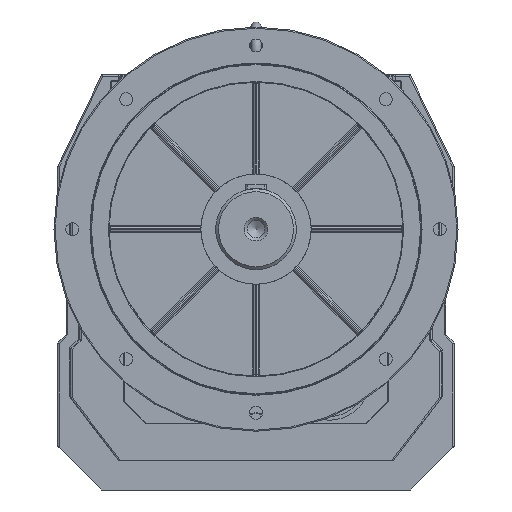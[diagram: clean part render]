
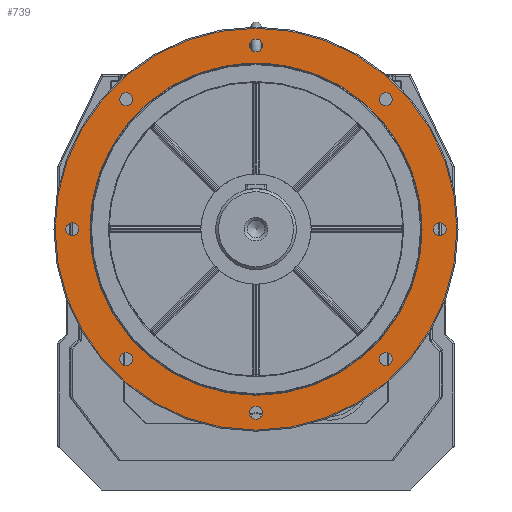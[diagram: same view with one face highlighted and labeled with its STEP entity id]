
A CAD part, front view. The second image highlights one B-rep face of the part: STEP entity #739.
In plain terms, the highlighted planar face has unit normal (0, -1, 0).
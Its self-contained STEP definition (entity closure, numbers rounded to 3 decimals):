
#617=CARTESIAN_POINT('',(0.0,-300.0,628.5));
#618=VERTEX_POINT('',#617);
#619=CARTESIAN_POINT('',(0.0,-300.0,355.0));
#620=DIRECTION('',(0.0,1.0,0.0));
#621=DIRECTION('',(0.0,0.0,-1.0));
#622=AXIS2_PLACEMENT_3D('',#619,#620,#621);
#623=CIRCLE('',#622,273.5);
#624=EDGE_CURVE('',#618,#618,#623,.T.);
#632=CARTESIAN_POINT('',(0.0,-300.0,605.0));
#633=DIRECTION('',(0.0,-1.0,0.0));
#634=DIRECTION('',(0.0,0.0,-1.0));
#635=AXIS2_PLACEMENT_3D('',#632,#633,#634);
#636=PLANE('',#635);
#637=ORIENTED_EDGE('',*,*,#624,.F.);
#638=EDGE_LOOP('',(#637));
#639=FACE_OUTER_BOUND('',#638,.T.);
#640=CARTESIAN_POINT('',(0.,-300.0,581.0));
#641=VERTEX_POINT('',#640);
#642=CARTESIAN_POINT('',(0.0,-300.0,355.0));
#643=DIRECTION('',(0.0,-1.0,0.0));
#644=DIRECTION('',(0.0,0.0,-1.0));
#645=AXIS2_PLACEMENT_3D('',#642,#643,#644);
#646=CIRCLE('',#645,226.0);
#647=EDGE_CURVE('',#641,#641,#646,.T.);
#648=ORIENTED_EDGE('',*,*,#647,.F.);
#649=EDGE_LOOP('',(#648));
#650=FACE_BOUND('',#649,.T.);
#651=CARTESIAN_POINT('',(-241.25,-300.0,355.0));
#652=VERTEX_POINT('',#651);
#653=CARTESIAN_POINT('',(-250.0,-300.0,355.0));
#654=DIRECTION('',(0.0,1.0,0.0));
#655=DIRECTION('',(1.0,0.0,0.0));
#656=AXIS2_PLACEMENT_3D('',#653,#654,#655);
#657=CIRCLE('',#656,8.75);
#658=EDGE_CURVE('',#652,#652,#657,.T.);
#659=ORIENTED_EDGE('',*,*,#658,.T.);
#660=EDGE_LOOP('',(#659));
#661=FACE_BOUND('',#660,.T.);
#662=CARTESIAN_POINT('',(-168.027,-300.0,531.777));
#663=VERTEX_POINT('',#662);
#664=CARTESIAN_POINT('',(-176.777,-300.0,531.777));
#665=DIRECTION('',(0.0,1.0,0.0));
#666=DIRECTION('',(1.0,0.0,0.0));
#667=AXIS2_PLACEMENT_3D('',#664,#665,#666);
#668=CIRCLE('',#667,8.75);
#669=EDGE_CURVE('',#663,#663,#668,.T.);
#670=ORIENTED_EDGE('',*,*,#669,.T.);
#671=EDGE_LOOP('',(#670));
#672=FACE_BOUND('',#671,.T.);
#673=CARTESIAN_POINT('',(8.75,-300.0,605.0));
#674=VERTEX_POINT('',#673);
#675=CARTESIAN_POINT('',(0.0,-300.0,605.0));
#676=DIRECTION('',(0.0,1.0,0.0));
#677=DIRECTION('',(1.0,0.0,0.0));
#678=AXIS2_PLACEMENT_3D('',#675,#676,#677);
#679=CIRCLE('',#678,8.75);
#680=EDGE_CURVE('',#674,#674,#679,.T.);
#681=ORIENTED_EDGE('',*,*,#680,.T.);
#682=EDGE_LOOP('',(#681));
#683=FACE_BOUND('',#682,.T.);
#684=CARTESIAN_POINT('',(185.527,-300.0,531.777));
#685=VERTEX_POINT('',#684);
#686=CARTESIAN_POINT('',(176.777,-300.0,531.777));
#687=DIRECTION('',(0.0,1.0,0.0));
#688=DIRECTION('',(1.0,0.0,0.0));
#689=AXIS2_PLACEMENT_3D('',#686,#687,#688);
#690=CIRCLE('',#689,8.75);
#691=EDGE_CURVE('',#685,#685,#690,.T.);
#692=ORIENTED_EDGE('',*,*,#691,.T.);
#693=EDGE_LOOP('',(#692));
#694=FACE_BOUND('',#693,.T.);
#695=CARTESIAN_POINT('',(258.75,-300.0,355.0));
#696=VERTEX_POINT('',#695);
#697=CARTESIAN_POINT('',(250.0,-300.0,355.0));
#698=DIRECTION('',(0.0,1.0,0.0));
#699=DIRECTION('',(1.0,0.0,0.0));
#700=AXIS2_PLACEMENT_3D('',#697,#698,#699);
#701=CIRCLE('',#700,8.75);
#702=EDGE_CURVE('',#696,#696,#701,.T.);
#703=ORIENTED_EDGE('',*,*,#702,.T.);
#704=EDGE_LOOP('',(#703));
#705=FACE_BOUND('',#704,.T.);
#706=CARTESIAN_POINT('',(-168.027,-300.0,178.223));
#707=VERTEX_POINT('',#706);
#708=CARTESIAN_POINT('',(-176.777,-300.0,178.223));
#709=DIRECTION('',(0.0,1.0,0.0));
#710=DIRECTION('',(1.0,0.0,0.0));
#711=AXIS2_PLACEMENT_3D('',#708,#709,#710);
#712=CIRCLE('',#711,8.75);
#713=EDGE_CURVE('',#707,#707,#712,.T.);
#714=ORIENTED_EDGE('',*,*,#713,.T.);
#715=EDGE_LOOP('',(#714));
#716=FACE_BOUND('',#715,.T.);
#717=CARTESIAN_POINT('',(185.527,-300.0,178.223));
#718=VERTEX_POINT('',#717);
#719=CARTESIAN_POINT('',(176.777,-300.0,178.223));
#720=DIRECTION('',(0.0,1.0,0.0));
#721=DIRECTION('',(1.0,0.0,0.0));
#722=AXIS2_PLACEMENT_3D('',#719,#720,#721);
#723=CIRCLE('',#722,8.75);
#724=EDGE_CURVE('',#718,#718,#723,.T.);
#725=ORIENTED_EDGE('',*,*,#724,.T.);
#726=EDGE_LOOP('',(#725));
#727=FACE_BOUND('',#726,.T.);
#728=CARTESIAN_POINT('',(8.75,-300.0,105.0));
#729=VERTEX_POINT('',#728);
#730=CARTESIAN_POINT('',(0.0,-300.0,105.0));
#731=DIRECTION('',(0.0,1.0,0.0));
#732=DIRECTION('',(1.0,0.0,0.0));
#733=AXIS2_PLACEMENT_3D('',#730,#731,#732);
#734=CIRCLE('',#733,8.75);
#735=EDGE_CURVE('',#729,#729,#734,.T.);
#736=ORIENTED_EDGE('',*,*,#735,.T.);
#737=EDGE_LOOP('',(#736));
#738=FACE_BOUND('',#737,.T.);
#739=ADVANCED_FACE('',(#639,#650,#661,#672,#683,#694,#705,#716,#727,#738),#636,.T.);
